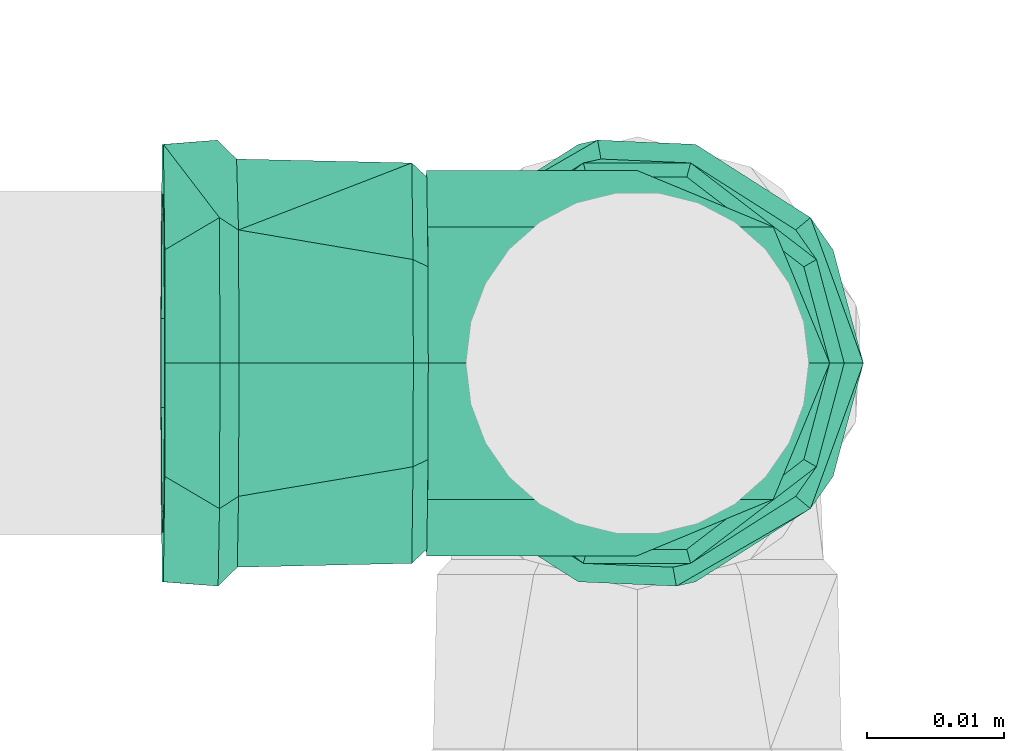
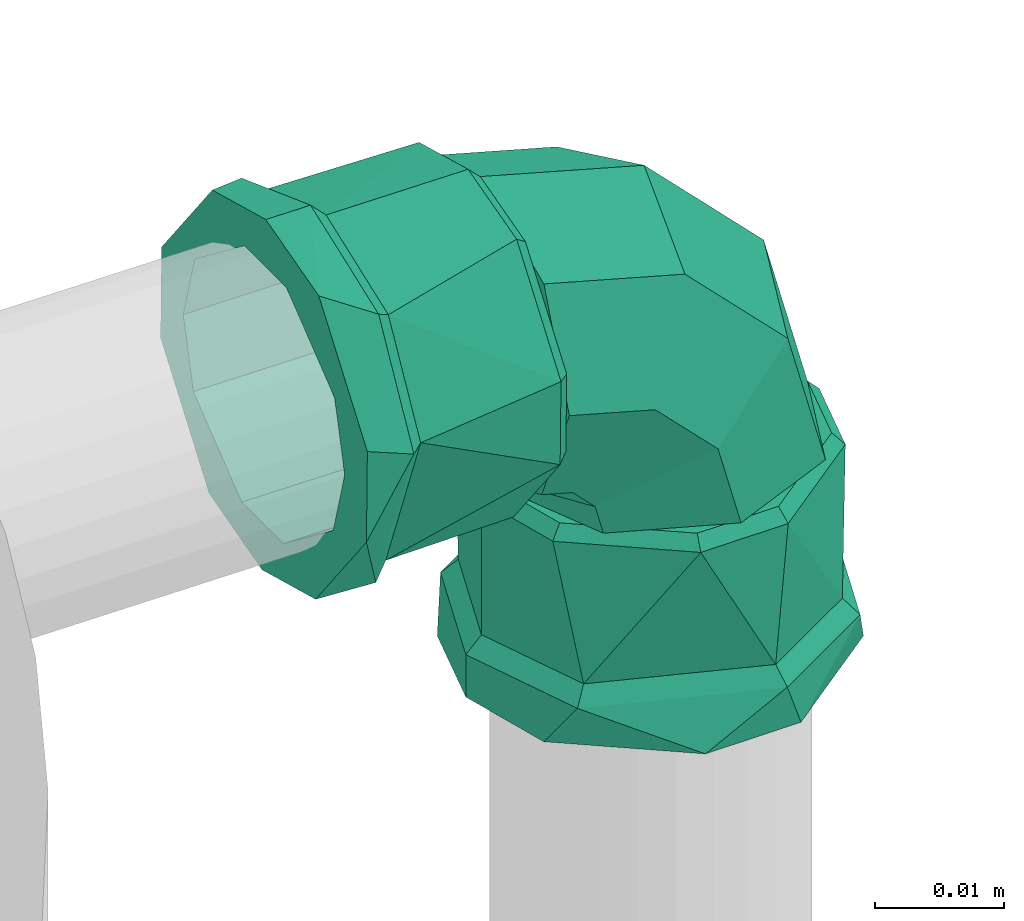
# One storey, part 328 of 589: 1 flow fitting.
"""IFC2X3 building model written with IfcOpenShell, lengths in millimetres."""

import ifcopenshell
import ifcopenshell.guid

model = None  # the IFC model being written
_history = None  # IfcOwnerHistory: only IFC2X3 demands one
_inside = {}  # id of a spatial element -> (the spatial element, [elements in it])
_under = {}  # id of a project, library or spatial element -> (it, [spatial elements below it])
_declared = {}  # id of a project -> (the project, [libraries it declares])
_typed = {}  # id of a type object -> (the type object, [elements of that type])
_made_of = {}  # id of a material, layer set ... -> (it, [elements and type objects made of it])


def new_model(schema):
    """Start an empty IFC model of exactly this schema.

    Asked for "IFC4X3", IfcOpenShell would pick the latest addendum, in which some entities
    have other attributes; the version numbers below select the first issue.
    IFC2X3 requires an IfcOwnerHistory on every rooted entity: one is made here for all.
    """
    global model, _history
    if schema == "IFC4X3":
        model = ifcopenshell.file(schema_version=(4, 3, 0, 0))
    else:
        model = ifcopenshell.file(schema=schema)
    _inside.clear()
    _under.clear()
    _declared.clear()
    _typed.clear()
    _made_of.clear()
    _history = None
    if model.schema == "IFC2X3":
        org = make("IfcOrganization", Name="unknown")
        user = make(
            "IfcPersonAndOrganization",
            ThePerson=make("IfcPerson", FamilyName="unknown"),
            TheOrganization=org,
        )
        app = make(
            "IfcApplication",
            ApplicationDeveloper=org,
            Version="unknown",
            ApplicationFullName="unknown",
            ApplicationIdentifier="unknown",
        )
        _history = make(
            "IfcOwnerHistory",
            OwningUser=user,
            OwningApplication=app,
            ChangeAction="ADDED",
            CreationDate=0,
        )
    return model


def make(cls, **values):
    """One entity of the class cls with the attributes given. An attribute that is None is left unset."""
    return model.create_entity(
        cls, **{name: value for name, value in values.items() if value is not None}
    )


def entity(cls, *values):
    """Any entity or typed value of the class cls, its attributes in the order of the schema. None: left unset."""
    e = model.create_entity(cls)
    for i, value in enumerate(values):
        if value is not None:
            e[i] = value
    return e


def rooted(cls, **values):
    """An entity with a GlobalId (a new one), such as an element, a storey or a relation."""
    return make(cls, GlobalId=ifcopenshell.guid.new(), OwnerHistory=_history, **values)


def si_unit(unit_type, name, prefix=None):
    """IfcSIUnit, for example si_unit("LENGTHUNIT", "METRE", prefix="MILLI")."""
    return make("IfcSIUnit", UnitType=unit_type, Prefix=prefix, Name=name)


def converted_unit(unit_type, name, factor, base, dimensions=None, offset=None):
    """IfcConversionBasedUnit, such as the inch: factor (a typed value) times the base unit."""
    return make(
        "IfcConversionBasedUnit"
        if offset is None
        else "IfcConversionBasedUnitWithOffset",
        ConversionOffset=offset,
        Dimensions=None
        if dimensions is None
        else entity("IfcDimensionalExponents", *dimensions),
        UnitType=unit_type,
        Name=name,
        ConversionFactor=make(
            "IfcMeasureWithUnit", ValueComponent=factor, UnitComponent=base
        ),
    )


def derived_unit(unit_type, elements):
    """IfcDerivedUnit: a product of units, each with its exponent."""
    return make(
        "IfcDerivedUnit",
        Elements=[
            make("IfcDerivedUnitElement", Unit=unit, Exponent=power)
            for unit, power in elements
        ],
        UnitType=unit_type,
    )


def assignment(units):
    """IfcUnitAssignment: the units of a project."""
    return None if units is None else make("IfcUnitAssignment", Units=units)


def point(xyz):
    """IfcCartesianPoint."""
    return None if xyz is None else make("IfcCartesianPoint", Coordinates=xyz)


def direction(xyz):
    """IfcDirection."""
    return None if xyz is None else make("IfcDirection", DirectionRatios=xyz)


def frame(location, z_axis=None, x_axis=None):
    """IfcAxis2Placement3D, a coordinate frame: its origin and axes. An axis left out is left unset."""
    return make(
        "IfcAxis2Placement3D",
        Location=point(location),
        Axis=direction(z_axis),
        RefDirection=direction(x_axis),
    )


def origin():
    """The frame at (0, 0, 0) with its axes left unset."""
    return frame((0.0, 0.0, 0.0))


def place(relative_to, where):
    """IfcLocalPlacement: puts the frame where relative to a parent placement (None: the world)."""
    return make(
        "IfcLocalPlacement", PlacementRelTo=relative_to, RelativePlacement=where
    )


def context(
    kind, dimensions, precision=None, world=None, true_north=None, identifier=None
):
    """IfcGeometricRepresentationContext, for example the 3D "Model" context."""
    return make(
        "IfcGeometricRepresentationContext",
        ContextIdentifier=identifier,
        ContextType=kind,
        CoordinateSpaceDimension=dimensions,
        Precision=precision,
        WorldCoordinateSystem=world,
        TrueNorth=true_north,
    )


def subcontext(parent, identifier, kind, view, scale=None):
    """IfcGeometricRepresentationSubContext, for example "Body" below "Model"."""
    return make(
        "IfcGeometricRepresentationSubContext",
        ContextIdentifier=identifier,
        ContextType=kind,
        ParentContext=parent,
        TargetScale=scale,
        TargetView=view,
    )


def project(units=None, contexts=None):
    """IfcProject with its units and contexts."""
    return rooted(
        "IfcProject",
        Name="project",
        RepresentationContexts=contexts,
        UnitsInContext=assignment(units),
    )


def spatial(cls, under=None, at=None, **own):
    """A site, building, storey or space (cls), placed at a placement, below another one or the project."""
    s = rooted(cls, ObjectPlacement=at, **own)
    if under is not None:
        _under.setdefault(under.id(), (under, []))[1].append(s)
    return s


def faces_of(points, faces, orient=None, outer=None):
    """IfcFace entities. A face is a list of loops; a loop is a list of indices into points, from 0.

    orient and outer hold one flag for each loop. By default every Orientation is true, the
    first loop of a face is its IfcFaceOuterBound and the others are IfcFaceBound.
    """
    made = []
    for i, loops in enumerate(faces):
        bounds = []
        for j, loop in enumerate(loops):
            is_outer = j == 0 if outer is None else outer[i][j]
            bounds.append(
                make(
                    "IfcFaceOuterBound" if is_outer else "IfcFaceBound",
                    Bound=make("IfcPolyLoop", Polygon=[points[k] for k in loop]),
                    Orientation=True if orient is None else orient[i][j],
                )
            )
        made.append(make("IfcFace", Bounds=bounds))
    return made


def faceted_brep(points, faces, orient=None, outer=None, voids=None):
    """IfcFacetedBrep: a solid bounded by flat faces; with voids (closed shells), ...WithVoids."""
    shared = [point(p) for p in points]
    hull = make("IfcClosedShell", CfsFaces=faces_of(shared, faces, orient, outer))
    if voids is None:
        return make("IfcFacetedBrep", Outer=hull)
    return make(
        "IfcFacetedBrepWithVoids",
        Outer=hull,
        Voids=[
            make(cls, CfsFaces=faces_of(shared, fs, o, b)) for cls, fs, o, b in voids
        ],
    )


def shape(context_of_items, identifier, shape_type, items):
    """IfcShapeRepresentation: the items that make up one representation, for example the "Body"."""
    return make(
        "IfcShapeRepresentation",
        ContextOfItems=context_of_items,
        RepresentationIdentifier=identifier,
        RepresentationType=shape_type,
        Items=items,
    )


def source(mapping_origin, context_of_items, identifier, shape_type, items):
    """IfcRepresentationMap: a shape defined once, which mapped items show again and again."""
    return make(
        "IfcRepresentationMap",
        MappingOrigin=mapping_origin,
        MappedRepresentation=shape(context_of_items, identifier, shape_type, items),
    )


def transform(
    local_origin,
    x_axis=None,
    y_axis=None,
    z_axis=None,
    scale=None,
    scale2=None,
    scale3=None,
    uniform=True,
):
    """IfcCartesianTransformationOperator3D, or its non-uniform kind. x_axis, y_axis, z_axis: its Axis1, 2, 3."""
    if uniform:
        return make(
            "IfcCartesianTransformationOperator3D",
            Axis1=direction(x_axis),
            Axis2=direction(y_axis),
            LocalOrigin=point(local_origin),
            Scale=scale,
            Axis3=direction(z_axis),
        )
    return make(
        "IfcCartesianTransformationOperator3DnonUniform",
        Axis1=direction(x_axis),
        Axis2=direction(y_axis),
        LocalOrigin=point(local_origin),
        Scale=scale,
        Axis3=direction(z_axis),
        Scale2=scale2,
        Scale3=scale3,
    )


def mapped(mapping_source, mapping_target):
    """IfcMappedItem: shows the shape of a source again, moved by a transform."""
    return make(
        "IfcMappedItem", MappingSource=mapping_source, MappingTarget=mapping_target
    )


def material(Name=None, Category=None):
    """IfcMaterial."""
    return make("IfcMaterial", Name=Name, Category=Category)


def made_of(thing, what):
    """Note that an element or type object is made of a material, layer set ...; save() writes the relation."""
    if what is not None:
        _made_of.setdefault(what.id(), (what, []))[1].append(thing)
    return thing


def type_object(cls, material=None, **own):
    """A type object (cls), such as IfcWallType, which elements share."""
    return made_of(rooted(cls, **own), material)


def type_shapes(of_type, sources):
    """Give a type object the sources (RepresentationMaps) that its elements show as mapped items."""
    of_type.RepresentationMaps = sources


def element(
    cls,
    number,
    at=None,
    inside=None,
    cuts=None,
    type_object=None,
    material=None,
    context=None,
    identifier="Body",
    shape_type=None,
    held_by="IfcProductDefinitionShape",
    body=None,
    shapes=None,
    **own,
):
    """One element of the class cls, such as IfcWall. Its Tag is "e" and its number.

    at: its placement. inside: the storey or other place that contains it. cuts: it is an
    opening in that element (IfcRelVoidsElement). A single representation is given by context,
    identifier, shape_type and body (its items); several are given by shapes. held_by: the class
    of the entity that holds the representations. save() writes the other relations.
    """
    e = rooted(cls, Tag="e%d" % number, ObjectPlacement=at, **own)
    if body is not None:
        shapes = [shape(context, identifier, shape_type, body)]
    if shapes is not None:
        e.Representation = make(held_by, Representations=shapes)
    if inside is not None:
        _inside.setdefault(inside.id(), (inside, []))[1].append(e)
    if cuts is not None:
        rooted(
            "IfcRelVoidsElement", RelatingBuildingElement=cuts, RelatedOpeningElement=e
        )
    if type_object is not None:
        _typed.setdefault(type_object.id(), (type_object, []))[1].append(e)
    return made_of(e, material)


def aggregate(whole, parts):
    """IfcRelAggregates: a whole, such as a stair, and the parts it consists of."""
    return rooted("IfcRelAggregates", RelatingObject=whole, RelatedObjects=parts)


def save(model, path):
    """Write the relations noted so far, then the file.

    IfcRelAggregates (storeys below a building ...), IfcRelContainedInSpatialStructure (elements
    in a storey), IfcRelDefinesByType, IfcRelAssociatesMaterial and IfcRelDeclares: one each for
    every whole, place, type object, material and project.
    """
    for whole, parts in _under.values():
        aggregate(whole, parts)
    for where, things in _inside.values():
        rooted(
            "IfcRelContainedInSpatialStructure",
            RelatedElements=things,
            RelatingStructure=where,
        )
    for kind, things in _typed.values():
        rooted("IfcRelDefinesByType", RelatedObjects=things, RelatingType=kind)
    for what, things in _made_of.values():
        rooted("IfcRelAssociatesMaterial", RelatedObjects=things, RelatingMaterial=what)
    for by, libraries in _declared.values():
        rooted("IfcRelDeclares", RelatingContext=by, RelatedDefinitions=libraries)
    model.write(path)


model = new_model("IFC2X3")

# Units and contexts
model_context = context("Model", 3, precision=0.01, world=origin(), true_north=direction((6.123031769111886e-17, 1.0)))
body_context = subcontext(model_context, "Body", "Model", "MODEL_VIEW")
ifc_project = project(units=[si_unit("LENGTHUNIT", "METRE", prefix="MILLI"), si_unit("AREAUNIT", "SQUARE_METRE"), si_unit("VOLUMEUNIT", "CUBIC_METRE"), converted_unit("PLANEANGLEUNIT", "DEGREE", entity("IfcRatioMeasure", 0.017453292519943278), si_unit("PLANEANGLEUNIT", "RADIAN"), dimensions=[0, 0, 0, 0, 0, 0, 0]), si_unit("MASSUNIT", "GRAM", prefix="KILO"), derived_unit("MASSDENSITYUNIT", [(si_unit("MASSUNIT", "GRAM", prefix="KILO"), 1), (si_unit("LENGTHUNIT", "METRE"), -3)]), derived_unit("IONCONCENTRATIONUNIT", [(si_unit("MASSUNIT", "GRAM", prefix="KILO"), 1), (si_unit("LENGTHUNIT", "METRE"), -3)]), derived_unit("MOMENTOFINERTIAUNIT", [(si_unit("LENGTHUNIT", "METRE"), 4)]), si_unit("TIMEUNIT", "SECOND"), si_unit("FREQUENCYUNIT", "HERTZ"), si_unit("THERMODYNAMICTEMPERATUREUNIT", "DEGREE_CELSIUS"), derived_unit("THERMALTRANSMITTANCEUNIT", [(si_unit("MASSUNIT", "GRAM", prefix="KILO"), 1), (si_unit("THERMODYNAMICTEMPERATUREUNIT", "KELVIN"), -1), (si_unit("TIMEUNIT", "SECOND"), -3)]), derived_unit("THERMALCONDUCTANCEUNIT", [(si_unit("MASSUNIT", "GRAM", prefix="KILO"), 1), (si_unit("THERMODYNAMICTEMPERATUREUNIT", "KELVIN"), -1), (si_unit("TIMEUNIT", "SECOND"), -3), (si_unit("LENGTHUNIT", "METRE"), 1)]), derived_unit("VOLUMETRICFLOWRATEUNIT", [(si_unit("LENGTHUNIT", "METRE"), 3), (si_unit("TIMEUNIT", "SECOND"), -1)]), derived_unit("MASSFLOWRATEUNIT", [(si_unit("MASSUNIT", "GRAM", prefix="KILO"), 1), (si_unit("TIMEUNIT", "SECOND"), -1)]), derived_unit("ROTATIONALFREQUENCYUNIT", [(si_unit("TIMEUNIT", "SECOND"), -1)]), si_unit("ELECTRICCURRENTUNIT", "AMPERE"), si_unit("ELECTRICVOLTAGEUNIT", "VOLT"), si_unit("POWERUNIT", "WATT"), si_unit("FORCEUNIT", "NEWTON", prefix="KILO"), si_unit("ILLUMINANCEUNIT", "LUX"), si_unit("LUMINOUSFLUXUNIT", "LUMEN"), si_unit("LUMINOUSINTENSITYUNIT", "CANDELA"), derived_unit("USERDEFINED", [(si_unit("MASSUNIT", "GRAM", prefix="KILO"), -1), (si_unit("LENGTHUNIT", "METRE"), -2), (si_unit("TIMEUNIT", "SECOND"), 3), (si_unit("LUMINOUSFLUXUNIT", "LUMEN"), 1)]), derived_unit("USERDEFINED", [(si_unit("MASSUNIT", "GRAM", prefix="KILO"), 1), (si_unit("TIMEUNIT", "SECOND"), -3), (si_unit("LENGTHUNIT", "METRE"), 3), (si_unit("ELECTRICCURRENTUNIT", "AMPERE"), -2)]), derived_unit("SOUNDPOWERUNIT", [(si_unit("MASSUNIT", "GRAM", prefix="KILO"), 1), (si_unit("TIMEUNIT", "SECOND"), -3), (si_unit("LENGTHUNIT", "METRE"), 2)]), derived_unit("SOUNDPRESSUREUNIT", [(si_unit("MASSUNIT", "GRAM", prefix="KILO"), 1), (si_unit("LENGTHUNIT", "METRE"), -1), (si_unit("TIMEUNIT", "SECOND"), -2)]), derived_unit("LINEARVELOCITYUNIT", [(si_unit("LENGTHUNIT", "METRE"), 1), (si_unit("TIMEUNIT", "SECOND"), -1)]), si_unit("PRESSUREUNIT", "PASCAL"), derived_unit("USERDEFINED", [(si_unit("MASSUNIT", "GRAM", prefix="KILO"), 1), (si_unit("LENGTHUNIT", "METRE"), -2), (si_unit("TIMEUNIT", "SECOND"), -2)]), derived_unit("LINEARFORCEUNIT", [(si_unit("MASSUNIT", "GRAM", prefix="KILO"), 1), (si_unit("TIMEUNIT", "SECOND"), -2)]), derived_unit("PLANARFORCEUNIT", [(si_unit("MASSUNIT", "GRAM", prefix="KILO"), 1), (si_unit("LENGTHUNIT", "METRE"), -1), (si_unit("TIMEUNIT", "SECOND"), -2)]), derived_unit("SPECIFICHEATCAPACITYUNIT", [(si_unit("THERMODYNAMICTEMPERATUREUNIT", "KELVIN"), -1), (si_unit("LENGTHUNIT", "METRE"), 2), (si_unit("TIMEUNIT", "SECOND"), -2)]), derived_unit("HEATINGVALUEUNIT", [(si_unit("LENGTHUNIT", "METRE"), 2), (si_unit("TIMEUNIT", "SECOND"), -2)]), derived_unit("VAPORPERMEABILITYUNIT", [(si_unit("LENGTHUNIT", "METRE"), -1), (si_unit("TIMEUNIT", "SECOND"), 1)]), derived_unit("DYNAMICVISCOSITYUNIT", [(si_unit("MASSUNIT", "GRAM", prefix="KILO"), 1), (si_unit("TIMEUNIT", "SECOND"), -1), (si_unit("LENGTHUNIT", "METRE"), -1)]), derived_unit("THERMALEXPANSIONCOEFFICIENTUNIT", [(si_unit("THERMODYNAMICTEMPERATUREUNIT", "KELVIN"), -1)]), derived_unit("MODULUSOFELASTICITYUNIT", [(si_unit("MASSUNIT", "GRAM", prefix="KILO"), 1), (si_unit("LENGTHUNIT", "METRE"), -1), (si_unit("TIMEUNIT", "SECOND"), -2)]), derived_unit("ISOTHERMALMOISTURECAPACITYUNIT", [(si_unit("LENGTHUNIT", "METRE"), 3), (si_unit("MASSUNIT", "GRAM", prefix="KILO"), -1)]), derived_unit("MOISTUREDIFFUSIVITYUNIT", [(si_unit("TIMEUNIT", "SECOND"), -1), (si_unit("LENGTHUNIT", "METRE"), 2)])], contexts=[model_context])

# Site, building, storey
site_placement = place(None, origin())
site = spatial("IfcSite", under=ifc_project, at=site_placement, Name="Default", CompositionType="ELEMENT")
building_placement = place(site_placement, origin())
building = spatial("IfcBuilding", under=site, at=building_placement, CompositionType="ELEMENT")
storey_placement = place(building_placement, frame((0.0, 0.0, 100.0)))
storey = spatial("IfcBuildingStorey", under=building, at=storey_placement, Name="TÉRREO", CompositionType="ELEMENT", Elevation=100.0)

# Flow fitting
ifc_material = material(Name="PVC Marrom")
pipe_fitting_type = type_object("IfcPipeFittingType", Name="PVC Marrom Soldável_Joelho 45°_90°_Rodrigo MEP:Joelho", PredefinedType="NOTDEFINED", material=ifc_material)
shared_shape = source(origin(), body_context, "Body", "Brep", [
    faceted_brep([(4.072421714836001, -16.405873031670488, 14.585479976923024), (-3.7435226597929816, -16.48403247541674, 14.585479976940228), (-12.911880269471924, -16.57571605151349, 7.549999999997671), (-14.934795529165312, -16.59594520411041, 0.0), (-12.91188026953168, -16.575716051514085, -7.550000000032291), (-3.7435226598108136, -16.48403247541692, -14.585479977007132), (4.07242171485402, -16.405873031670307, -14.585479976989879), (13.240779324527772, -16.314189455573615, -7.55000000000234), (15.263694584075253, -16.29396030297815, 0.0), (13.240779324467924, -16.314189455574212, 7.549999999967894), (3.7870877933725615, -15.308671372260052, 13.561598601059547), (12.31183884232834, -15.223423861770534, 7.019999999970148), (14.192748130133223, -15.204614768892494, 0.0), (12.311838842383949, -15.223423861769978, -7.02000000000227), (3.7870877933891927, -15.308671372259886, -13.561598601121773), (-3.480187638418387, -15.381344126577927, -13.561598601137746), (-12.004938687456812, -15.466591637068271, -7.020000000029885), (-13.885847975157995, -15.485400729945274, 0.0), (-12.004938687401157, -15.466591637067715, 7.0199999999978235), (-3.4801876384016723, -15.38134412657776, 13.561598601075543)], [[[0, 1, 2, 3, 4, 5, 6, 7, 8, 9]], [[10, 11, 12, 13, 14, 15, 16, 17, 18, 19]], [[13, 12, 8, 7]], [[14, 13, 7, 6]], [[6, 5, 15, 14]], [[16, 15, 5, 4]], [[17, 16, 4, 3]], [[18, 17, 3, 2]], [[19, 18, 2, 1]], [[1, 0, 10, 19]], [[11, 10, 0, 9]], [[12, 11, 9, 8]]]),
    faceted_brep([(-16.445774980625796, -3.908167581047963, 14.585479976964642), (-16.445774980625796, 3.908167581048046, 14.585479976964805), (-16.445774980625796, 13.076983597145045, 7.550000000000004), (-16.445774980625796, 15.100000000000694, 0.0), (-16.445774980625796, 13.0769835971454, -7.550000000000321), (-16.445774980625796, 3.9081675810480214, -14.585479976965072), (-16.445774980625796, -3.9081675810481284, -14.58547997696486), (-16.445774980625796, -13.076983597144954, -7.54999999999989), (-16.445774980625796, -15.099999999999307, 0.0), (-16.445774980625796, -13.076983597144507, 7.549999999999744), (-15.345774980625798, 3.633819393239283, 13.56159860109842), (-15.345774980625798, -3.6338193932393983, 13.561598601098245), (-15.345774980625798, -12.158996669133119, 7.019999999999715), (-15.345774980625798, -14.040000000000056, 0.0), (-15.345774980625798, -12.158996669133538, -7.019999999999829), (-15.345774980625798, -3.6338193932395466, -13.56159860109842), (-15.345774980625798, 3.63381939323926, -13.561598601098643), (-15.345774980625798, 12.158996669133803, -7.020000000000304), (-15.345774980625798, 14.039999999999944, 0.0), (-15.345774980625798, 12.15899666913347, 7.020000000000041)], [[[0, 1, 2, 3, 4, 5, 6, 7, 8, 9]], [[10, 11, 12, 13, 14, 15, 16, 17, 18, 19]], [[14, 13, 8, 7]], [[15, 14, 7, 6]], [[6, 5, 16, 15]], [[17, 16, 5, 4]], [[18, 17, 4, 3]], [[19, 18, 3, 2]], [[10, 19, 2, 1]], [[1, 0, 11, 10]], [[12, 11, 0, 9]], [[13, 12, 9, 8]]]),
    faceted_brep([(-34.545774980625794, 0.0, -12.5), (-34.545774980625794, 6.250000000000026, -10.825317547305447), (-34.545774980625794, 4.2705142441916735, -15.937776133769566), (-34.545774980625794, -4.270514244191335, -15.937776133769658), (-34.545774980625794, -6.250000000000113, -10.82531754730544), (-34.545774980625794, 14.289419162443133, -8.25000000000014), (-34.545774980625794, 12.074072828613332, -3.23523806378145), (-34.545774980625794, 16.5, 0.0), (-34.545774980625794, 12.074072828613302, 3.2352380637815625), (-34.545774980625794, 14.289419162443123, 8.249999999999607), (-34.545774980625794, 6.249999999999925, 10.825317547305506), (-34.545774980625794, 4.27051424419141, 15.937776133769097), (-34.545774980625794, 0.0, 12.5), (-34.545774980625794, -4.270514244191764, 15.937776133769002), (-34.545774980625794, -6.249999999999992, 10.825317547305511), (-34.545774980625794, -14.28941916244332, 8.249999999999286), (-34.545774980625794, -12.074072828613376, 3.2352380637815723), (-34.545774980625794, -16.5, 0.0), (-34.545774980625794, -12.074072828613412, -3.235238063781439), (-34.545774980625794, -14.289419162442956, -8.250000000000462), (-30.545774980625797, -16.5, 0.0), (-30.545774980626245, -12.639142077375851, 10.606700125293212), (-30.545774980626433, -4.885841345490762, 13.427814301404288), (-30.54577498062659, 2.8674593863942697, 16.24892847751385), (-30.545774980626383, 12.64180232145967, 10.603529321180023), (-30.545774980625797, 16.499999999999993, 0.0), (-30.545774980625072, 12.641802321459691, -10.603529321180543), (-30.545774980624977, 4.889209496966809, -13.426588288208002), (-30.54577498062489, -2.8633833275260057, -16.249647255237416), (-30.545774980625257, -12.639142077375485, -10.606700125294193), (-29.145774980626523, 11.56916454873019, 9.703835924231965), (-29.145774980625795, 15.099999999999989, 0.0), (-29.145774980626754, 2.624159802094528, 14.870231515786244), (-29.145774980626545, -4.471285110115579, 12.288484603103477), (-29.14577498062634, -11.566730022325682, 9.706737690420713), (-29.145774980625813, -15.099999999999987, 0.0), (-29.14577498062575, -11.566730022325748, -9.706737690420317), (-29.145774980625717, -2.620429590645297, -14.87088930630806), (-29.14577498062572, 4.4743674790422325, -12.287362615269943), (-29.145774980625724, 11.569164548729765, -9.703835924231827), (-16.445774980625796, 3.908167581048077, -14.585479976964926), (-16.445774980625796, 6.250000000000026, -10.825317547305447), (-16.445774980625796, 0.0, -12.5), (-16.445774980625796, 13.076983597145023, -7.549999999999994), (-16.445774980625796, -3.9081675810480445, -14.585479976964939), (-16.445774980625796, 12.074072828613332, -3.23523806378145), (-16.445774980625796, 15.099999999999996, 0.0), (-16.445774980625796, 12.074072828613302, 3.2352380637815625), (-16.445774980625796, 13.076983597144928, 7.550000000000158), (-16.445774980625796, 6.249999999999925, 10.825317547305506), (-16.445774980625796, 3.9081675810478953, 14.585479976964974), (-16.445774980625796, 0.0, 12.5), (-16.445774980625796, -3.9081675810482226, 14.58547997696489), (-16.445774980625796, -6.249999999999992, 10.825317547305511), (-16.445774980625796, -13.076983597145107, 7.549999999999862), (-16.445774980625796, -12.074072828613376, 3.2352380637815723), (-16.445774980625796, -15.100000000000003, 0.0), (-16.445774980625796, -12.074072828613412, -3.235238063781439), (-16.445774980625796, -13.076983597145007, -7.550000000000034), (-16.445774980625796, -6.250000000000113, -10.82531754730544)], [[[0, 1, 2]], [[2, 3, 0]], [[4, 0, 3]], [[5, 2, 1]], [[1, 6, 5]], [[6, 7, 5]], [[8, 7, 6]], [[7, 8, 9]], [[10, 9, 8]], [[9, 10, 11]], [[12, 11, 10]], [[13, 11, 12]], [[12, 14, 13]], [[13, 14, 15]], [[16, 15, 14]], [[15, 16, 17]], [[16, 18, 17]], [[19, 18, 4]], [[17, 18, 19]], [[3, 19, 4]], [[20, 15, 17]], [[20, 21, 15]], [[13, 15, 21]], [[13, 21, 22, 23]], [[9, 11, 24]], [[7, 9, 25]], [[23, 24, 11]], [[25, 9, 24]], [[13, 23, 11]], [[25, 5, 7]], [[25, 26, 5]], [[2, 5, 26]], [[2, 26, 27, 28]], [[19, 3, 29]], [[17, 19, 20]], [[28, 29, 3]], [[20, 19, 29]], [[2, 28, 3]], [[24, 30, 31, 25]], [[30, 24, 23, 32]], [[33, 32, 23, 22, 21, 34]], [[20, 35, 34, 21]], [[29, 36, 35, 20]], [[36, 29, 28, 37]], [[38, 37, 28, 27, 26, 39]], [[25, 31, 39, 26]], [[40, 41, 42]], [[41, 40, 43]], [[42, 44, 40]], [[43, 45, 41]], [[43, 46, 45]], [[45, 46, 47]], [[48, 47, 46]], [[47, 48, 49]], [[50, 49, 48]], [[49, 50, 51]], [[51, 50, 52]], [[52, 53, 51]], [[54, 53, 52]], [[53, 54, 55]], [[56, 55, 54]], [[56, 57, 55]], [[58, 57, 56]], [[59, 57, 58]], [[59, 58, 44]], [[44, 42, 59]], [[54, 34, 35]], [[56, 54, 35]], [[52, 34, 54]], [[52, 32, 33, 34]], [[30, 32, 50]], [[31, 30, 48]], [[50, 48, 30]], [[46, 31, 48]], [[52, 50, 32]], [[43, 39, 31]], [[46, 43, 31]], [[40, 39, 43]], [[40, 37, 38, 39]], [[36, 37, 44]], [[35, 36, 58]], [[44, 58, 36]], [[56, 35, 58]], [[40, 44, 37]], [[49, 51, 12, 10]], [[47, 49, 10, 8]], [[8, 6, 45, 47]], [[41, 45, 6, 1]], [[42, 41, 1, 0]], [[59, 42, 0, 4]], [[57, 59, 4, 18]], [[18, 16, 55, 57]], [[53, 55, 16, 14]], [[51, 53, 14, 12]]]),
    faceted_brep([(10.13758433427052, -0.5597858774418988, 0.0), (6.590082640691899, -2.6395915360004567, 9.92777920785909), (10.080732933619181, -15.245734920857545, 9.92777920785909), (14.192748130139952, -15.20461476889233, 0.0), (-1.9743440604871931, -7.660686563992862, 14.04), (0.15345007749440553, -15.34500774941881, 14.04), (-10.538770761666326, -12.681781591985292, 9.927779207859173), (-9.77383277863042, -15.444280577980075, 9.927779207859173), (-14.086272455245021, -14.761587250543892, 0.0), (-13.885847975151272, -15.48540072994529, 0.0), (-10.538770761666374, -12.681781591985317, -9.92777920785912), (-9.77383277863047, -15.444280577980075, -9.92777920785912), (-1.974344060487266, -7.660686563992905, -14.04), (0.15345007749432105, -15.34500774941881, -14.04), (6.590082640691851, -2.6395915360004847, -9.927779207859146), (10.080732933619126, -15.245734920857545, -9.927779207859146), (-0.6611286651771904, 10.131479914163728, 0.0), (-2.7053570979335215, 6.563358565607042, 9.92777920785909), (-7.640561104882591, -2.050848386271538, 14.04), (-12.575765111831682, -10.665055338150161, 9.927779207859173), (-14.619993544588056, -14.233176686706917, 0.0), (-12.57576511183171, -10.665055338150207, -9.92777920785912), (-7.640561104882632, -2.050848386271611, -14.04), (-2.705357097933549, 6.563358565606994, -9.927779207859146), (-15.345774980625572, 14.03999999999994, 0.0), (-15.3457749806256, 9.927779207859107, 9.92777920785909), (-15.345774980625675, 0.0, 14.04), (-15.345774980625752, -9.927779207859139, 9.927779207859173), (-15.345774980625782, -14.040000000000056, 0.0), (-15.345774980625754, -9.927779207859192, -9.92777920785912), (-15.345774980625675, 0.0, -14.04), (-15.3457749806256, 9.92777920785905, -9.927779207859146)], [[[0, 1, 2, 3]], [[1, 4, 5, 2]], [[4, 6, 7, 5]], [[6, 8, 9, 7]], [[8, 10, 11, 9]], [[10, 12, 13, 11]], [[12, 14, 15, 13]], [[14, 0, 3, 15]], [[16, 17, 1, 0]], [[17, 18, 4, 1]], [[18, 19, 6, 4]], [[19, 20, 8, 6]], [[20, 21, 10, 8]], [[21, 22, 12, 10]], [[22, 23, 14, 12]], [[23, 16, 0, 14]], [[24, 25, 17, 16]], [[25, 26, 18, 17]], [[26, 27, 19, 18]], [[27, 28, 20, 19]], [[28, 29, 21, 20]], [[29, 30, 22, 21]], [[30, 31, 23, 22]], [[31, 24, 16, 23]], [[3, 2, 5, 7, 9, 11, 13, 15]], [[31, 30, 29, 28, 27, 26, 25, 24]]]),
    faceted_brep([(-3.743522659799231, -16.484032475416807, -14.585479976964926), (-6.085237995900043, -16.507449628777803, -10.825317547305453), (0.16444952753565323, -16.444952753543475, -12.5), (-12.911880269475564, -16.575716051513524, -7.5499999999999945), (4.072421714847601, -16.40587303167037, -14.585479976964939), (-11.90901964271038, -16.565687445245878, -3.235238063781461), (-14.934795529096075, -16.595945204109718, 0.0), (-11.90901964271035, -16.565687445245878, 3.2352380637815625), (-12.911880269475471, -16.575716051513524, 7.550000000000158), (-6.08523799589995, -16.507449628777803, 10.825317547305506), (-3.7435226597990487, -16.484032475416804, 14.585479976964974), (0.16444952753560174, -16.444952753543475, 12.5), (4.0724217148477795, -16.40587303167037, 14.58547997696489), (6.414137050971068, -16.38245587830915, 10.825317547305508), (13.240779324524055, -16.31418945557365, 7.549999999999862), (12.23791869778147, -16.324218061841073, 3.2352380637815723), (15.263694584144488, -16.293960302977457, 0.0), (12.23791869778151, -16.324218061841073, -3.235238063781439), (13.240779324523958, -16.31418945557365, -7.550000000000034), (6.414137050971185, -16.38245587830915, -10.82531754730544), (11.85759490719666, -29.02865628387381, 9.706737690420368), (15.39068823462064, -28.99332535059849, 0.0), (2.911741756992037, -29.11811481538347, 14.870889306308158), (-11.27714295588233, -29.260003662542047, 9.703835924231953), (-4.182700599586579, -29.189059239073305, 12.287362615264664), (-14.807801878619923, -29.29531025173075, 0.0), (-11.27714295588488, -29.26000366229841, -9.703835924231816), (-2.332585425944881, -29.170558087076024, -14.870231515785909), (11.857594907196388, -29.028656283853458, -9.706737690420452), (4.76250474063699, -29.099607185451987, -12.28848460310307), (3.1727585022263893, -30.515574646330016, 16.248928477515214), (-4.580154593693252, -30.59310377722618, 13.427814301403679), (-16.193732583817, -30.709239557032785, 0.0), (-12.333067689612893, -30.670632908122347, 10.606700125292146), (12.946612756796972, -30.41783610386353, 10.603529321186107), (16.80461753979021, -30.37925605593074, 0.0), (12.946612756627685, -30.41783610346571, -10.603529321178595), (5.194407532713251, -30.495358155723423, -13.426588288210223), (-2.557797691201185, -30.572880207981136, -16.249647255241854), (-12.333067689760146, -30.670632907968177, -10.606700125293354), (0.34544047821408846, -34.54404782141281, -12.5), (-5.904247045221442, -34.606544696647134, -10.825317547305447), (-3.9248602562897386, -34.58675082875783, -15.937776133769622), (4.61574121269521, -34.50134481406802, -15.937776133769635), (6.595128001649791, -34.48155094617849, -10.82531754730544), (-13.94326426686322, -34.68693486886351, -8.24999999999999), (-11.72802869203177, -34.664782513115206, -3.23523806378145), (-16.153734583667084, -34.709039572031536, 0.0), (-11.72802869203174, -34.664782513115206, 3.2352380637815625), (-13.943264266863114, -34.68693486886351, 8.250000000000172), (-5.904247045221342, -34.606544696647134, 10.825317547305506), (-3.92486025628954, -34.58675082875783, 15.937776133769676), (0.34544047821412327, -34.54404782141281, 12.5), (4.615741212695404, -34.50134481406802, 15.937776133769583), (6.5951280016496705, -34.48155094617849, 10.825317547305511), (14.63414522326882, -34.40116077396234, 8.24999999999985), (12.418909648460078, -34.423313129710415, 3.2352380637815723), (16.844615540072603, -34.37905607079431, 0.0), (12.418909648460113, -34.423313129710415, -3.235238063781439), (14.634145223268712, -34.40116077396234, -8.250000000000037)], [[[0, 1, 2]], [[1, 0, 3]], [[2, 4, 0]], [[3, 5, 1]], [[3, 6, 5]], [[5, 6, 7]], [[8, 7, 6]], [[7, 8, 9]], [[10, 9, 8]], [[9, 10, 11]], [[11, 10, 12]], [[12, 13, 11]], [[14, 13, 12]], [[13, 14, 15]], [[16, 15, 14]], [[16, 17, 15]], [[18, 17, 16]], [[19, 17, 18]], [[19, 18, 4]], [[4, 2, 19]], [[14, 20, 21]], [[16, 14, 21]], [[12, 20, 14]], [[12, 22, 20]], [[10, 23, 24, 22]], [[25, 23, 8]], [[10, 8, 23]], [[6, 25, 8]], [[12, 10, 22]], [[3, 26, 25]], [[6, 3, 25]], [[0, 26, 3]], [[0, 27, 26]], [[4, 28, 29, 27]], [[21, 28, 18]], [[4, 18, 28]], [[16, 21, 18]], [[0, 4, 27]], [[30, 22, 31]], [[32, 23, 25]], [[33, 23, 32]], [[31, 24, 33]], [[34, 21, 20]], [[24, 23, 33]], [[20, 30, 34]], [[21, 34, 35]], [[24, 31, 22]], [[22, 30, 20]], [[36, 28, 21]], [[21, 35, 36]], [[36, 37, 28]], [[37, 29, 28]], [[37, 38, 29]], [[32, 25, 26]], [[27, 39, 26]], [[32, 26, 39]], [[27, 29, 38]], [[38, 39, 27]], [[40, 41, 42]], [[42, 43, 40]], [[44, 40, 43]], [[45, 42, 41]], [[41, 46, 45]], [[46, 47, 45]], [[48, 47, 46]], [[47, 48, 49]], [[50, 49, 48]], [[49, 50, 51]], [[52, 51, 50]], [[53, 51, 52]], [[52, 54, 53]], [[53, 54, 55]], [[56, 55, 54]], [[55, 56, 57]], [[56, 58, 57]], [[59, 58, 44]], [[57, 58, 59]], [[43, 59, 44]], [[35, 55, 57]], [[35, 34, 55]], [[53, 55, 34]], [[30, 53, 34]], [[49, 51, 33]], [[47, 49, 32]], [[51, 30, 31, 33]], [[32, 49, 33]], [[53, 30, 51]], [[32, 45, 47]], [[32, 39, 45]], [[42, 45, 39]], [[38, 42, 39]], [[59, 43, 36]], [[57, 59, 35]], [[43, 38, 37, 36]], [[35, 59, 36]], [[42, 38, 43]], [[9, 11, 52, 50]], [[7, 9, 50, 48]], [[48, 46, 5, 7]], [[1, 5, 46, 41]], [[2, 1, 41, 40]], [[19, 2, 40, 44]], [[17, 19, 44, 58]], [[58, 56, 15, 17]], [[13, 15, 56, 54]], [[11, 13, 54, 52]]]),
])
type_shapes(pipe_fitting_type, [shared_shape])
flow_fitting_placement = place(storey_placement, frame((203.70402156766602, -7887.861245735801, 2574.6639354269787), z_axis=(0.0, -1.0, 0.0), x_axis=(0.9999500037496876, 0.0, -0.009999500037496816)))
element("IfcFlowFitting", 1, at=flow_fitting_placement, inside=storey, type_object=pipe_fitting_type, material=ifc_material, Name="PVC Marrom Soldável_Joelho 45°_90°_Rodrigo MEP:Joelho", ObjectType="PVC Marrom Soldável_Joelho 45°_90°_Rodrigo MEP:Joelho", context=body_context, shape_type="MappedRepresentation", body=[
    mapped(shared_shape, transform((0.0, 0.0, 0.0), scale=1.0)),
])

save(model, "model.ifc")
